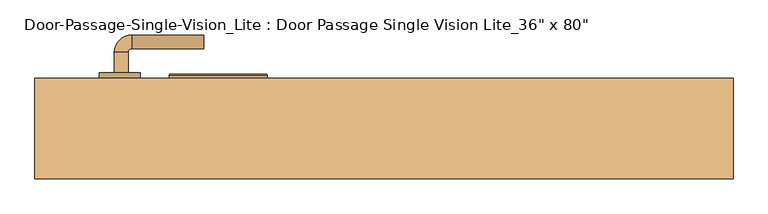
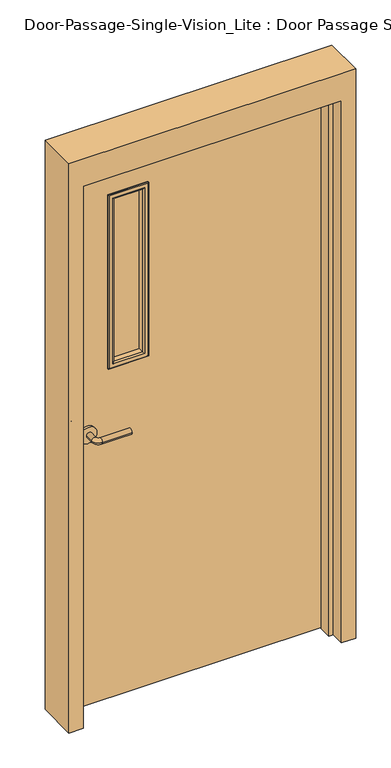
"""IFC4 building model written with IfcOpenShell, lengths in millimetres: door geometry."""

from ifc_helpers import new_model, si_unit, point, frame, frame_2d, origin, place, context, project, spatial, polyline, circle_curve, ellipse_curve, trimmed, segment, composite_curve, outline, extrude, faceted_brep, source, transform, mapped, element, save
from ifc_brep_helpers import plane_surface, cylinder_surface, revolved_surface, advanced_brep


def door_a2a745b5(model_context):
    return source(origin(), model_context, "Body", "SolidModel", [
        advanced_brep(
        [(-392.190625, 20.575, 1016.0), (-372.190625, 20.575, 1016.0), (-372.190625, -9.425, 1016.0), (-392.190625, -9.425, 1016.0), (-367.190625, -14.425, 1016.0), (-367.190625, -34.425, 1016.0), (-262.190625, -34.425, 1016.0), (-262.190625, -14.425, 1016.0)],
        [
            (0, 1, circle_curve(frame((-382.190625, 20.575, 1016.0), z_axis=(0.0, 1.0, 0.0), x_axis=(1.0, 0.0, 0.0)), 10.0)),
            (1, 0, circle_curve(frame((-382.190625, 20.575, 1016.0), z_axis=(0.0, 1.0, 0.0), x_axis=(1.0, 0.0, 0.0)), 10.0)),
            (1, 2),
            (2, 3, circle_curve(frame((-382.190625, -9.425, 1016.0), z_axis=(0.0, 1.0, 0.0), x_axis=(1.0, 0.0, 0.0)), 10.0)),
            (3, 0),
            (3, 2, circle_curve(frame((-382.190625, -9.425, 1016.0), z_axis=(0.0, 1.0, 0.0), x_axis=(1.0, 0.0, 0.0)), 10.0)),
            (4, 5, circle_curve(frame((-367.190625, -24.425, 1016.0), z_axis=(-1.0, 0.0, 0.0), x_axis=(0.0, 1.0, 0.0)), 10.0)),
            (5, 3, circle_curve(frame((-367.190625, -9.425, 1016.0), z_axis=(0.0, 0.0, -1.0), x_axis=(-1.0, 0.0, 0.0)), 25.0)),
            (2, 4, circle_curve(frame((-367.190625, -9.425, 1016.0), z_axis=(0.0, 0.0, 1.0), x_axis=(-1.0, 0.0, 0.0)), 5.0)),
            (5, 4, circle_curve(frame((-367.190625, -24.425, 1016.0), z_axis=(-1.0, 0.0, 0.0), x_axis=(0.0, 1.0, 0.0)), 10.0)),
            (6, 7, circle_curve(frame((-262.190625, -24.425, 1016.0), z_axis=(1.0, 0.0, 0.0), x_axis=(0.0, 1.0, 0.0)), 10.0)),
            (7, 6, circle_curve(frame((-262.190625, -24.425, 1016.0), z_axis=(1.0, 0.0, 0.0), x_axis=(0.0, 1.0, 0.0)), 10.0)),
            (4, 7),
            (6, 5),
        ],
        [
            plane_surface(frame((-382.190625, 20.575, 1016.0), z_axis=(0.0, 1.0, 0.0), x_axis=(0.0, 0.0, 1.0))),
            cylinder_surface(frame((-382.190625, 20.575, 1016.0), z_axis=(0.0, 1.0, 0.0), x_axis=(1.0, 0.0, 0.0)), 10.0),
            revolved_surface(trimmed(ellipse_curve(frame((-382.190625, -9.425, 1016.0), z_axis=(0.0, -1.0, 0.0), x_axis=(1.0, 0.0, 0.0)), 10.0, 10.0), [point((-392.190625, -9.425, 1016.0))], [point((-372.190625, -9.425, 1016.0))], True, "CARTESIAN"), (-367.190625, -9.425, 1016.0), (0.0, 0.0, -1.0)),
            revolved_surface(trimmed(ellipse_curve(frame((-382.190625, -9.425, 1016.0), z_axis=(0.0, -1.0, 0.0), x_axis=(1.0, 0.0, 0.0)), 10.0, 10.0), [point((-372.190625, -9.425, 1016.0))], [point((-392.190625, -9.425, 1016.0))], True, "CARTESIAN"), (-367.190625, -9.425, 1016.0), (0.0, 0.0, -1.0)),
            plane_surface(frame((-262.190625, -24.425, 1016.0), z_axis=(1.0, 0.0, 0.0), x_axis=(0.0, 0.0, 1.0))),
            cylinder_surface(frame((-367.190625, -24.425, 1016.0), z_axis=(-1.0, 0.0, 0.0), x_axis=(0.0, 1.0, 0.0)), 10.0),
        ],
        [
            (0, [[1, 2]]),
            (1, [[3, 4, 5, -2]]),
            (1, [[-5, 6, -3, -1]]),
            (2, [[7, 8, -4, 9]]),
            (3, [[10, -9, -6, -8]]),
            (4, [[11, 12]]),
            (5, [[13, -11, 14, -7]]),
            (5, [[-14, -12, -13, -10]]),
        ],
    ),
        extrude(outline(composite_curve([segment(trimmed(circle_curve(frame_2d((1016.0, -384.690625)), 30.0), [point((1016.0, -414.690625))], [point((1016.0, -354.690625))], False, "CARTESIAN"), True, "CONTINUOUS"), segment(trimmed(circle_curve(frame_2d((1016.0, -384.690625)), 30.0), [point((1016.0, -354.690625))], [point((1016.0, -414.690625))], False, "CARTESIAN"), True, "CONTINUOUS")], self_intersect=False)), frame((0.0, 20.575, 0.0), z_axis=(0.0, 1.0, 0.0), x_axis=(0.0, 0.0, 1.0)), (0.0, 0.0, 1.0), 8.0),
        advanced_brep(
        [(-392.190625, 81.025, 1016.0), (-372.190625, 81.025, 1016.0), (-392.190625, 111.025, 1016.0), (-372.190625, 111.025, 1016.0), (-367.190625, 116.025, 1016.0), (-367.190625, 136.025, 1016.0), (-262.190625, 136.025, 1016.0), (-262.190625, 116.025, 1016.0)],
        [
            (0, 1, circle_curve(frame((-382.190625, 81.025, 1016.0), z_axis=(0.0, -1.0, 0.0), x_axis=(1.0, 0.0, 0.0)), 10.0)),
            (1, 0, circle_curve(frame((-382.190625, 81.025, 1016.0), z_axis=(0.0, -1.0, 0.0), x_axis=(1.0, 0.0, 0.0)), 10.0)),
            (0, 2),
            (2, 3, circle_curve(frame((-382.190625, 111.025, 1016.0), z_axis=(0.0, -1.0, 0.0), x_axis=(1.0, 0.0, 0.0)), 10.0)),
            (3, 1),
            (3, 2, circle_curve(frame((-382.190625, 111.025, 1016.0), z_axis=(0.0, -1.0, 0.0), x_axis=(1.0, 0.0, 0.0)), 10.0)),
            (4, 3, circle_curve(frame((-367.190625, 111.025, 1016.0), z_axis=(0.0, 0.0, 1.0), x_axis=(-1.0, 0.0, 0.0)), 5.0)),
            (2, 5, circle_curve(frame((-367.190625, 111.025, 1016.0), z_axis=(0.0, 0.0, -1.0), x_axis=(-1.0, 0.0, 0.0)), 25.0)),
            (5, 4, circle_curve(frame((-367.190625, 126.025, 1016.0), z_axis=(-1.0, 0.0, 0.0), x_axis=(0.0, -1.0, 0.0)), 10.0)),
            (4, 5, circle_curve(frame((-367.190625, 126.025, 1016.0), z_axis=(-1.0, 0.0, 0.0), x_axis=(0.0, -1.0, 0.0)), 10.0)),
            (6, 7, circle_curve(frame((-262.190625, 126.025, 1016.0), z_axis=(1.0, 0.0, 0.0), x_axis=(0.0, -1.0, 0.0)), 10.0)),
            (7, 6, circle_curve(frame((-262.190625, 126.025, 1016.0), z_axis=(1.0, 0.0, 0.0), x_axis=(0.0, -1.0, 0.0)), 10.0)),
            (5, 6),
            (7, 4),
        ],
        [
            plane_surface(frame((-382.190625, 81.025, 1016.0), z_axis=(0.0, -1.0, 0.0), x_axis=(0.0, 0.0, 1.0))),
            cylinder_surface(frame((-382.190625, 81.025, 1016.0), z_axis=(0.0, -1.0, 0.0), x_axis=(1.0, 0.0, 0.0)), 10.0),
            revolved_surface(trimmed(ellipse_curve(frame((-382.190625, 111.025, 1016.0), z_axis=(0.0, -1.0, 0.0), x_axis=(1.0, 0.0, 0.0)), 10.0, 10.0), [point((-392.190625, 111.025, 1016.0))], [point((-372.190625, 111.025, 1016.0))], True, "CARTESIAN"), (-367.190625, 111.025, 1016.0), (0.0, 0.0, -1.0)),
            revolved_surface(trimmed(ellipse_curve(frame((-382.190625, 111.025, 1016.0), z_axis=(0.0, -1.0, 0.0), x_axis=(1.0, 0.0, 0.0)), 10.0, 10.0), [point((-372.190625, 111.025, 1016.0))], [point((-392.190625, 111.025, 1016.0))], True, "CARTESIAN"), (-367.190625, 111.025, 1016.0), (0.0, 0.0, -1.0)),
            plane_surface(frame((-262.190625, 126.025, 1016.0), z_axis=(1.0, 0.0, 0.0), x_axis=(0.0, 0.0, 1.0))),
            cylinder_surface(frame((-367.190625, 126.025, 1016.0), z_axis=(-1.0, 0.0, 0.0), x_axis=(0.0, -1.0, 0.0)), 10.0),
        ],
        [
            (0, [[1, 2]]),
            (1, [[-1, 3, 4, 5]]),
            (1, [[-2, -5, 6, -3]]),
            (2, [[7, -4, 8, 9]]),
            (3, [[-8, -6, -7, 10]]),
            (4, [[11, 12]]),
            (5, [[-9, 13, -12, 14]]),
            (5, [[-10, -14, -11, -13]]),
        ],
    ),
        extrude(outline(composite_curve([segment(trimmed(circle_curve(frame_2d((1016.0, -384.690625)), 30.0), [point((1016.0, -414.690625))], [point((1016.0, -354.690625))], False, "CARTESIAN"), True, "CONTINUOUS"), segment(trimmed(circle_curve(frame_2d((1016.0, -384.690625)), 30.0), [point((1016.0, -354.690625))], [point((1016.0, -414.690625))], False, "CARTESIAN"), True, "CONTINUOUS")], self_intersect=False)), frame((0.0, 73.025, 0.0), z_axis=(0.0, 1.0, 0.0), x_axis=(0.0, 0.0, 1.0)), (0.0, 0.0, 1.0), 8.0),
        faceted_brep([(457.2, 23.8125, 0.0), (457.2, 73.025, 0.0), (508.0, 73.025, 0.0), (508.0, -73.025, 0.0), (457.2, -73.025, 0.0), (457.2, -23.8125, 0.0), (441.325, -23.8125, 0.0), (441.325, 23.8125, 0.0), (457.2, 23.8125, 2032.0), (457.2, 73.025, 2032.0), (-457.2, 73.025, 2032.0), (-457.2, 73.025, 0.0), (-508.0, 73.025, 0.0), (-508.0, 73.025, 2133.6), (508.0, 73.025, 2133.6), (508.0, -73.025, 2133.6), (-508.0, -73.025, 2133.6), (-508.0, -73.025, 0.0), (-457.2, -73.025, 0.0), (-457.2, -73.025, 2032.0), (457.2, -73.025, 2032.0), (457.2, -23.8125, 2032.0), (-457.2, -23.8125, 2032.0), (-457.2, -23.8125, 0.0), (-441.325, -23.8125, 0.0), (-441.325, -23.8125, 2016.125), (441.325, -23.8125, 2016.125), (441.325, 23.8125, 2016.125), (-441.325, 23.8125, 2016.125), (-441.325, 23.8125, 0.0), (-457.2, 23.8125, 0.0), (-457.2, 23.8125, 2032.0)], [[[0, 1, 2, 3, 4, 5, 6, 7]], [[1, 0, 8, 9]], [[2, 1, 9, 10, 11, 12, 13, 14]], [[3, 2, 14, 15]], [[4, 3, 15, 16, 17, 18, 19, 20]], [[5, 4, 20, 21]], [[6, 5, 21, 22, 23, 24, 25, 26]], [[7, 6, 26, 27]], [[0, 7, 27, 28, 29, 30, 31, 8]], [[9, 8, 31, 10]], [[20, 19, 22, 21]], [[26, 25, 28, 27]], [[12, 11, 30, 29, 24, 23, 18, 17]], [[11, 10, 31, 30]], [[13, 12, 17, 16]], [[19, 18, 23, 22]], [[25, 24, 29, 28]], [[15, 14, 13, 16]]]),
        extrude(outline(polyline([(2032.0, -457.2), (0.0, -457.2), (0.0, 457.2), (2032.0, 457.2), (2032.0, -457.2)]), holes=[polyline([(1879.6, -304.8), (1879.6, -177.8), (1244.6, -177.8), (1244.6, -304.8), (1879.6, -304.8)])]), frame((0.0, 28.575, 0.0), z_axis=(0.0, 1.0, 0.0), x_axis=(0.0, 0.0, 1.0)), (0.0, 0.0, 1.0), 44.45),
        extrude(outline(polyline([(-177.8, 47.625), (-304.8, 47.625), (-304.8, 53.975), (-177.8, 53.975), (-177.8, 47.625)])), frame((0.0, 0.0, 1244.6), z_axis=(0.0, 0.0, 1.0), x_axis=(1.0, 0.0, 0.0)), (0.0, 0.0, 1.0), 635.0),
        advanced_brep(
        [(-304.8, 47.625, 1244.6), (-304.8, 28.575, 1244.6), (-304.8, 28.575, 1879.6), (-304.8, 47.625, 1879.6), (-292.8, 27.575, 1256.6), (-292.8, 47.625, 1256.6), (-292.8, 47.625, 1867.6), (-292.8, 27.575, 1867.6), (-297.8, 22.575, 1251.6), (-297.8, 22.575, 1872.6), (-312.8, 24.575, 1236.6), (-310.8, 22.575, 1238.6), (-310.8, 22.575, 1885.6), (-312.8, 24.575, 1887.6), (-312.8, 28.575, 1236.6), (-312.8, 28.575, 1887.6), (-177.8, 28.575, 1879.6), (-177.8, 47.625, 1879.6), (-189.8, 47.625, 1867.6), (-189.8, 27.575, 1867.6), (-184.8, 22.575, 1872.6), (-171.8, 22.575, 1885.6), (-169.8, 24.575, 1887.6), (-169.8, 28.575, 1887.6), (-177.8, 28.575, 1244.6), (-177.8, 47.625, 1244.6), (-189.8, 47.625, 1256.6), (-189.8, 27.575, 1256.6), (-184.8, 22.575, 1251.6), (-171.8, 22.575, 1238.6), (-169.8, 24.575, 1236.6), (-169.8, 28.575, 1236.6)],
        [
            (0, 1),
            (1, 2),
            (2, 3),
            (3, 0),
            (4, 5),
            (5, 6),
            (6, 7),
            (7, 4),
            (8, 4, ellipse_curve(frame((-297.8, 27.575, 1251.6), z_axis=(-0.7071067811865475, 0.0, 0.7071067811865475), x_axis=(-0.7071067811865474, 0.0, -0.7071067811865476)), 7.0710678, 5.0)),
            (7, 9, ellipse_curve(frame((-297.8, 27.575, 1872.6), z_axis=(-0.7071067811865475, 0.0, -0.7071067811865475), x_axis=(0.7071067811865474, 0.0, -0.7071067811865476)), 7.0710678, 5.0)),
            (9, 8),
            (10, 11, ellipse_curve(frame((-310.8, 24.575, 1238.6), z_axis=(-0.7071067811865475, 0.0, 0.7071067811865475), x_axis=(-0.7071067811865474, 0.0, -0.7071067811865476)), 2.8284271, 2.0)),
            (11, 12),
            (12, 13, ellipse_curve(frame((-310.8, 24.575, 1885.6), z_axis=(-0.7071067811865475, 0.0, -0.7071067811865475), x_axis=(0.7071067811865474, 0.0, -0.7071067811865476)), 2.8284271, 2.0)),
            (13, 10),
            (14, 10),
            (13, 15),
            (15, 14),
            (2, 16),
            (16, 17),
            (17, 3),
            (6, 18),
            (18, 19),
            (19, 7),
            (19, 20, ellipse_curve(frame((-184.8, 27.575, 1872.6), z_axis=(-0.7071067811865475, 0.0, 0.7071067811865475), x_axis=(-0.7071067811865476, 0.0, -0.7071067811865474)), 7.0710678, 5.0)),
            (20, 9),
            (12, 21),
            (21, 22, ellipse_curve(frame((-171.8, 24.575, 1885.6), z_axis=(-0.7071067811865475, 0.0, 0.7071067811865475), x_axis=(-0.7071067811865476, 0.0, -0.7071067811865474)), 2.8284271, 2.0)),
            (22, 13),
            (22, 23),
            (23, 15),
            (16, 24),
            (24, 25),
            (25, 17),
            (18, 26),
            (26, 27),
            (27, 19),
            (27, 28, ellipse_curve(frame((-184.8, 27.575, 1251.6), z_axis=(0.7071067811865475, 0.0, 0.7071067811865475), x_axis=(-0.7071067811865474, 0.0, 0.7071067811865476)), 7.0710678, 5.0)),
            (28, 20),
            (21, 29),
            (29, 30, ellipse_curve(frame((-171.8, 24.575, 1238.6), z_axis=(0.7071067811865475, 0.0, 0.7071067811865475), x_axis=(-0.7071067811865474, 0.0, 0.7071067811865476)), 2.8284271, 2.0)),
            (30, 22),
            (30, 31),
            (31, 23),
            (31, 14),
            (1, 24),
            (0, 25),
            (5, 26),
            (4, 27),
            (8, 28),
            (11, 29),
            (10, 30),
        ],
        [
            plane_surface(frame((-304.8, 28.575, 1244.6), z_axis=(-1.0, 0.0, 0.0), x_axis=(0.0, 0.0, 1.0))),
            plane_surface(frame((-292.8, 47.625, 1256.6), z_axis=(1.0, 0.0, 0.0), x_axis=(0.0, 0.0, 1.0))),
            cylinder_surface(frame((-297.8, 27.575, 1244.6), z_axis=(0.0, 0.0, -1.0), x_axis=(-1.0, 0.0, 0.0)), 5.0),
            cylinder_surface(frame((-310.8, 24.575, 1244.6), z_axis=(0.0, 0.0, -1.0), x_axis=(-1.0, 0.0, 0.0)), 2.0),
            plane_surface(frame((-312.8, 24.575, 1236.6), z_axis=(-1.0, 0.0, 0.0), x_axis=(0.0, 0.0, 1.0))),
            plane_surface(frame((-304.8, 28.575, 1879.6), z_axis=(0.0, 0.0, 1.0), x_axis=(1.0, 0.0, 0.0))),
            plane_surface(frame((-292.8, 47.625, 1867.6), z_axis=(0.0, 0.0, -1.0), x_axis=(1.0, 0.0, 0.0))),
            cylinder_surface(frame((-304.8, 27.575, 1872.6), z_axis=(-1.0, 0.0, 0.0), x_axis=(0.0, 0.0, 1.0)), 5.0),
            cylinder_surface(frame((-304.8, 24.575, 1885.6), z_axis=(-1.0, 0.0, 0.0), x_axis=(0.0, 0.0, 1.0)), 2.0),
            plane_surface(frame((-312.8, 24.575, 1887.6), z_axis=(0.0, 0.0, 1.0), x_axis=(1.0, 0.0, 0.0))),
            plane_surface(frame((-177.8, 28.575, 1879.6), z_axis=(1.0, 0.0, 0.0), x_axis=(0.0, 0.0, -1.0))),
            plane_surface(frame((-189.8, 47.625, 1867.6), z_axis=(-1.0, 0.0, 0.0), x_axis=(0.0, 0.0, -1.0))),
            cylinder_surface(frame((-184.8, 27.575, 1879.6), z_axis=(0.0, 0.0, 1.0), x_axis=(1.0, 0.0, 0.0)), 5.0),
            cylinder_surface(frame((-171.8, 24.575, 1879.6), z_axis=(0.0, 0.0, 1.0), x_axis=(1.0, 0.0, 0.0)), 2.0),
            plane_surface(frame((-169.8, 24.575, 1887.6), z_axis=(1.0, 0.0, 0.0), x_axis=(0.0, 0.0, -1.0))),
            plane_surface(frame((-169.8, 28.575, 1236.6), z_axis=(0.0, 1.0, 0.0), x_axis=(-1.0, 0.0, 0.0))),
            plane_surface(frame((-177.8, 28.575, 1244.6), z_axis=(0.0, 0.0, -1.0), x_axis=(-1.0, 0.0, 0.0))),
            plane_surface(frame((-177.8, 47.625, 1244.6), z_axis=(0.0, 1.0, 0.0), x_axis=(-1.0, 0.0, 0.0))),
            plane_surface(frame((-189.8, 47.625, 1256.6), z_axis=(0.0, 0.0, 1.0), x_axis=(-1.0, 0.0, 0.0))),
            cylinder_surface(frame((-177.8, 27.575, 1251.6), z_axis=(1.0, 0.0, 0.0), x_axis=(0.0, 0.0, -1.0)), 5.0),
            plane_surface(frame((-184.8, 22.575, 1251.6), z_axis=(0.0, -1.0, 0.0), x_axis=(-1.0, 0.0, 0.0))),
            cylinder_surface(frame((-177.8, 24.575, 1238.6), z_axis=(1.0, 0.0, 0.0), x_axis=(0.0, 0.0, -1.0)), 2.0),
            plane_surface(frame((-169.8, 24.575, 1236.6), z_axis=(0.0, 0.0, -1.0), x_axis=(-1.0, 0.0, 0.0))),
        ],
        [
            (0, [[1, 2, 3, 4]]),
            (1, [[5, 6, 7, 8]]),
            (2, [[9, -8, 10, 11]]),
            (3, [[12, 13, 14, 15]]),
            (4, [[16, -15, 17, 18]]),
            (5, [[-3, 19, 20, 21]]),
            (6, [[-7, 22, 23, 24]]),
            (7, [[-10, -24, 25, 26]]),
            (8, [[-14, 27, 28, 29]]),
            (9, [[-17, -29, 30, 31]]),
            (10, [[-20, 32, 33, 34]]),
            (11, [[-23, 35, 36, 37]]),
            (12, [[-25, -37, 38, 39]]),
            (13, [[-28, 40, 41, 42]]),
            (14, [[-30, -42, 43, 44]]),
            (15, [[-31, -44, 45, -18], [46, -32, -19, -2]]),
            (16, [[-33, -46, -1, 47]]),
            (17, [[-21, -34, -47, -4], [48, -35, -22, -6]]),
            (18, [[-36, -48, -5, 49]]),
            (19, [[-38, -49, -9, 50]]),
            (20, [[51, -40, -27, -13], [-26, -39, -50, -11]]),
            (21, [[-41, -51, -12, 52]]),
            (22, [[-43, -52, -16, -45]]),
        ],
    ),
        advanced_brep(
        [(-304.8, 53.975, 1879.6), (-304.8, 73.025, 1879.6), (-304.8, 73.025, 1244.6), (-304.8, 53.975, 1244.6), (-292.8, 74.025, 1867.6), (-292.8, 53.975, 1867.6), (-292.8, 53.975, 1256.6), (-292.8, 74.025, 1256.6), (-297.8, 79.025, 1872.6), (-297.8, 79.025, 1251.6), (-312.8, 77.025, 1887.6), (-310.8, 79.025, 1885.6), (-310.8, 79.025, 1238.6), (-312.8, 77.025, 1236.6), (-312.8, 73.025, 1887.6), (-312.8, 73.025, 1236.6), (-177.8, 73.025, 1244.6), (-177.8, 53.975, 1244.6), (-189.8, 53.975, 1256.6), (-189.8, 74.025, 1256.6), (-184.8, 79.025, 1251.6), (-171.8, 79.025, 1238.6), (-169.8, 77.025, 1236.6), (-169.8, 73.025, 1236.6), (-177.8, 73.025, 1879.6), (-177.8, 53.975, 1879.6), (-189.8, 53.975, 1867.6), (-189.8, 74.025, 1867.6), (-184.8, 79.025, 1872.6), (-171.8, 79.025, 1885.6), (-169.8, 77.025, 1887.6), (-169.8, 73.025, 1887.6)],
        [
            (0, 1),
            (1, 2),
            (2, 3),
            (3, 0),
            (4, 5),
            (5, 6),
            (6, 7),
            (7, 4),
            (8, 4, ellipse_curve(frame((-297.8, 74.025, 1872.6), z_axis=(-0.7071067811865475, 0.0, -0.7071067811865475), x_axis=(-0.7071067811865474, 0.0, 0.7071067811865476)), 7.0710678, 5.0)),
            (7, 9, ellipse_curve(frame((-297.8, 74.025, 1251.6), z_axis=(-0.7071067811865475, 0.0, 0.7071067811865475), x_axis=(0.7071067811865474, 0.0, 0.7071067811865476)), 7.0710678, 5.0)),
            (9, 8),
            (10, 11, ellipse_curve(frame((-310.8, 77.025, 1885.6), z_axis=(-0.7071067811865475, 0.0, -0.7071067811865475), x_axis=(-0.7071067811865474, 0.0, 0.7071067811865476)), 2.8284271, 2.0)),
            (11, 12),
            (12, 13, ellipse_curve(frame((-310.8, 77.025, 1238.6), z_axis=(-0.7071067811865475, 0.0, 0.7071067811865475), x_axis=(0.7071067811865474, 0.0, 0.7071067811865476)), 2.8284271, 2.0)),
            (13, 10),
            (14, 10),
            (13, 15),
            (15, 14),
            (2, 16),
            (16, 17),
            (17, 3),
            (6, 18),
            (18, 19),
            (19, 7),
            (19, 20, ellipse_curve(frame((-184.8, 74.025, 1251.6), z_axis=(-0.7071067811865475, 0.0, -0.7071067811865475), x_axis=(-0.7071067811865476, 0.0, 0.7071067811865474)), 7.0710678, 5.0)),
            (20, 9),
            (12, 21),
            (21, 22, ellipse_curve(frame((-171.8, 77.025, 1238.6), z_axis=(-0.7071067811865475, 0.0, -0.7071067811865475), x_axis=(-0.7071067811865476, 0.0, 0.7071067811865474)), 2.8284271, 2.0)),
            (22, 13),
            (22, 23),
            (23, 15),
            (16, 24),
            (24, 25),
            (25, 17),
            (18, 26),
            (26, 27),
            (27, 19),
            (27, 28, ellipse_curve(frame((-184.8, 74.025, 1872.6), z_axis=(0.7071067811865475, 0.0, -0.7071067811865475), x_axis=(-0.7071067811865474, 0.0, -0.7071067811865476)), 7.0710678, 5.0)),
            (28, 20),
            (21, 29),
            (29, 30, ellipse_curve(frame((-171.8, 77.025, 1885.6), z_axis=(0.7071067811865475, 0.0, -0.7071067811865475), x_axis=(-0.7071067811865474, 0.0, -0.7071067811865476)), 2.8284271, 2.0)),
            (30, 22),
            (30, 31),
            (31, 23),
            (31, 14),
            (1, 24),
            (0, 25),
            (5, 26),
            (4, 27),
            (8, 28),
            (11, 29),
            (10, 30),
        ],
        [
            plane_surface(frame((-304.8, 73.025, 1879.6), z_axis=(-1.0, 0.0, 0.0), x_axis=(0.0, 0.0, -1.0))),
            plane_surface(frame((-292.8, 53.975, 1867.6), z_axis=(1.0, 0.0, 0.0), x_axis=(0.0, 0.0, -1.0))),
            cylinder_surface(frame((-297.8, 74.025, 1879.6), z_axis=(0.0, 0.0, 1.0), x_axis=(-1.0, 0.0, 0.0)), 5.0),
            cylinder_surface(frame((-310.8, 77.025, 1879.6), z_axis=(0.0, 0.0, 1.0), x_axis=(-1.0, 0.0, 0.0)), 2.0),
            plane_surface(frame((-312.8, 77.025, 1887.6), z_axis=(-1.0, 0.0, 0.0), x_axis=(0.0, 0.0, -1.0))),
            plane_surface(frame((-304.8, 73.025, 1244.6), z_axis=(0.0, 0.0, -1.0), x_axis=(1.0, 0.0, 0.0))),
            plane_surface(frame((-292.8, 53.975, 1256.6), z_axis=(0.0, 0.0, 1.0), x_axis=(1.0, 0.0, 0.0))),
            cylinder_surface(frame((-304.8, 74.025, 1251.6), z_axis=(-1.0, 0.0, 0.0), x_axis=(0.0, 0.0, -1.0)), 5.0),
            cylinder_surface(frame((-304.8, 77.025, 1238.6), z_axis=(-1.0, 0.0, 0.0), x_axis=(0.0, 0.0, -1.0)), 2.0),
            plane_surface(frame((-312.8, 77.025, 1236.6), z_axis=(0.0, 0.0, -1.0), x_axis=(1.0, 0.0, 0.0))),
            plane_surface(frame((-177.8, 73.025, 1244.6), z_axis=(1.0, 0.0, 0.0), x_axis=(0.0, 0.0, 1.0))),
            plane_surface(frame((-189.8, 53.975, 1256.6), z_axis=(-1.0, 0.0, 0.0), x_axis=(0.0, 0.0, 1.0))),
            cylinder_surface(frame((-184.8, 74.025, 1244.6), z_axis=(0.0, 0.0, -1.0), x_axis=(1.0, 0.0, 0.0)), 5.0),
            cylinder_surface(frame((-171.8, 77.025, 1244.6), z_axis=(0.0, 0.0, -1.0), x_axis=(1.0, 0.0, 0.0)), 2.0),
            plane_surface(frame((-169.8, 77.025, 1236.6), z_axis=(1.0, 0.0, 0.0), x_axis=(0.0, 0.0, 1.0))),
            plane_surface(frame((-169.8, 73.025, 1887.6), z_axis=(0.0, -1.0, 0.0), x_axis=(-1.0, 0.0, 0.0))),
            plane_surface(frame((-177.8, 73.025, 1879.6), z_axis=(0.0, 0.0, 1.0), x_axis=(-1.0, 0.0, 0.0))),
            plane_surface(frame((-177.8, 53.975, 1879.6), z_axis=(0.0, -1.0, 0.0), x_axis=(-1.0, 0.0, 0.0))),
            plane_surface(frame((-189.8, 53.975, 1867.6), z_axis=(0.0, 0.0, -1.0), x_axis=(-1.0, 0.0, 0.0))),
            cylinder_surface(frame((-177.8, 74.025, 1872.6), z_axis=(1.0, 0.0, 0.0), x_axis=(0.0, 0.0, 1.0)), 5.0),
            plane_surface(frame((-184.8, 79.025, 1872.6), z_axis=(0.0, 1.0, 0.0), x_axis=(-1.0, 0.0, 0.0))),
            cylinder_surface(frame((-177.8, 77.025, 1885.6), z_axis=(1.0, 0.0, 0.0), x_axis=(0.0, 0.0, 1.0)), 2.0),
            plane_surface(frame((-169.8, 77.025, 1887.6), z_axis=(0.0, 0.0, 1.0), x_axis=(-1.0, 0.0, 0.0))),
        ],
        [
            (0, [[1, 2, 3, 4]]),
            (1, [[5, 6, 7, 8]]),
            (2, [[9, -8, 10, 11]]),
            (3, [[12, 13, 14, 15]]),
            (4, [[16, -15, 17, 18]]),
            (5, [[-3, 19, 20, 21]]),
            (6, [[-7, 22, 23, 24]]),
            (7, [[-10, -24, 25, 26]]),
            (8, [[-14, 27, 28, 29]]),
            (9, [[-17, -29, 30, 31]]),
            (10, [[-20, 32, 33, 34]]),
            (11, [[-23, 35, 36, 37]]),
            (12, [[-25, -37, 38, 39]]),
            (13, [[-28, 40, 41, 42]]),
            (14, [[-30, -42, 43, 44]]),
            (15, [[-31, -44, 45, -18], [46, -32, -19, -2]]),
            (16, [[-33, -46, -1, 47]]),
            (17, [[-21, -34, -47, -4], [48, -35, -22, -6]]),
            (18, [[-36, -48, -5, 49]]),
            (19, [[-38, -49, -9, 50]]),
            (20, [[51, -40, -27, -13], [-26, -39, -50, -11]]),
            (21, [[-41, -51, -12, 52]]),
            (22, [[-43, -52, -16, -45]]),
        ],
    ),
    ])


if __name__ == "__main__":
    model = new_model("IFC4")
    model_context = context("Model", 3, world=origin())
    ifc_project = project(units=[si_unit("LENGTHUNIT", "METRE", prefix="MILLI")], contexts=[model_context])
    site = spatial("IfcSite", under=ifc_project)
    building = spatial("IfcBuilding", under=site)
    placement = place(None, origin())
    door_shape = door_a2a745b5(model_context)
    element("IfcDoor", 1, ObjectType="Door-Passage-Single-Vision_Lite : Door Passage Single Vision Lite_36\" x 80\"", at=placement, inside=building, context=model_context, shape_type="MappedRepresentation", body=[
        mapped(door_shape, transform((0.0, 0.0, 0.0), x_axis=(1.0, 0.0, 0.0), y_axis=(0.0, 1.0, 0.0), z_axis=(0.0, 0.0, 1.0))),
    ])
    save(model, "model.ifc")
